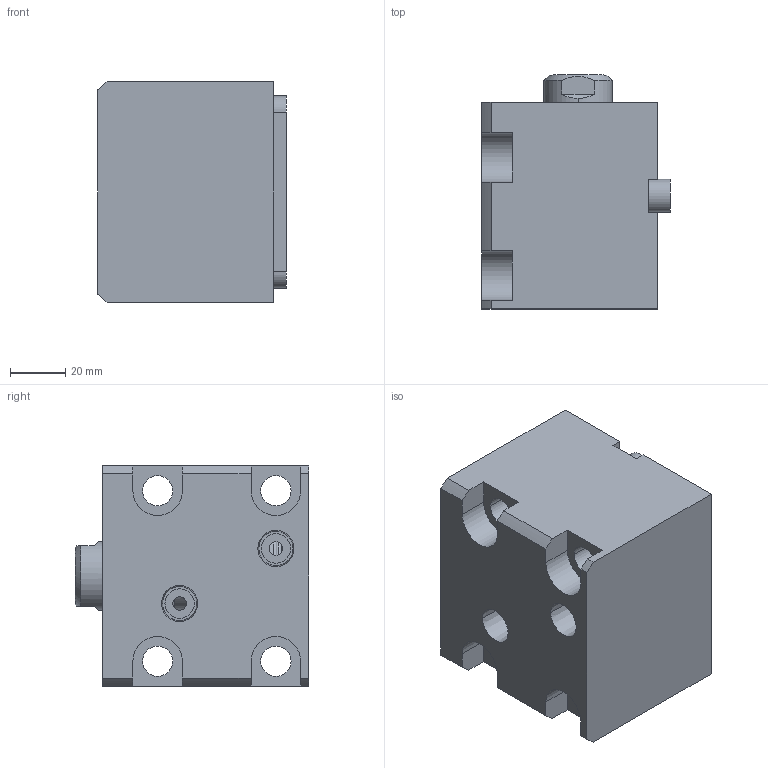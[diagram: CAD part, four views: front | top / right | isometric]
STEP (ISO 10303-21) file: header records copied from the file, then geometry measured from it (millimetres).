
FILE_DESCRIPTION (( 'STEP AP214' ), '1' );
FILE_NAME ('chtb-la40x20n_asm.STEP', '2018-05-31T02:36:34', ( 'Windows' ), ( 'Microsoft' ), 'SwSTEP 2.0', 'SolidWorks 2015', '' );
FILE_SCHEMA (( 'AUTOMOTIVE_DESIGN' ));
Length unit declared in the file: millimetre
Products named in the file (5): CHTB-LA40PJ; chtb-la40x20n_asm; CHTB-SD40X20NHSG; CHTB-SD40QG; CHTB-LA40X20NBT
Assembly tree (4 placements, depth 2):
  chtb-la40x20n_asm
    CHTB-LA40PJ
    CHTB-LA40X20NBT
    CHTB-SD40QG
    CHTB-SD40X20NHSG
Bounding box: 68.5 x 85 x 80 mm (x, y, z)
Volume: 331056.6 mm3; surface area: 74426.1 mm2
Topology: 4 solids, 4 shells, 160 faces, 430 edges, 286 vertices
Faces by surface type: cylinder 73, plane 48, bspline 14, cone 13, torus 12
Entity records: 10258 total; most frequent: CARTESIAN_POINT 6106, ORIENTED_EDGE 848, DIRECTION 787, EDGE_CURVE 424, AXIS2_PLACEMENT_3D 314, VERTEX_POINT 286, EDGE_LOOP 188, CIRCLE 161
